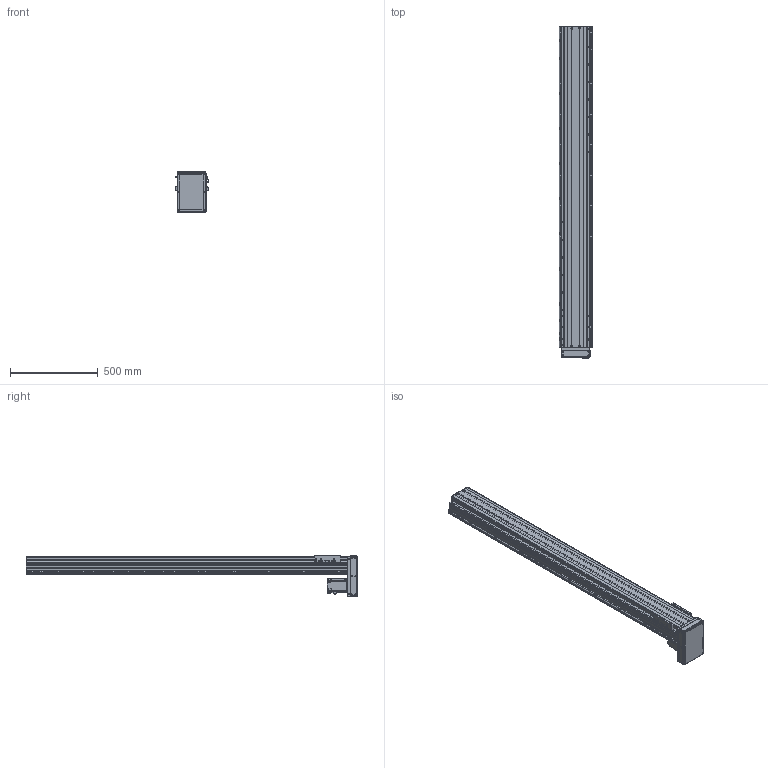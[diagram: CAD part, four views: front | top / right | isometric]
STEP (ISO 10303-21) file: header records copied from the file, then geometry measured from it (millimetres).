
FILE_DESCRIPTION(/* description */ ('MANUFACTURE','CAx-IF Rec.Pracs.---Representation and Presentation of Product Manufacturing Information (PMI)---4.0---2014-10-13'),/* implementation_level */ '2;1');
FILE_NAME(/* name */ '\\192.168.0.160\disk1\HAN SHIN Master\B-설계부문\C-표준\B-2024년\BC02-표준도면\+로봇 개선표준도면\표준 승인도 폴더 - 재작업\3D\HS Type\HS160\D-Type\HS160-D70-N-1600-R10.stp',/* time_stamp */ '2024-08-28T13:39:44+09:00',/* author */ ('user'),/* organization */ (''),/* preprocessor_version */ 'ST-DEVELOPER v18.1',/* originating_system */ 'Autodesk Inventor 2022',/* authorisation */ 'LIP');
FILE_SCHEMA (('AP242_MANAGED_MODEL_BASED_3D_ENGINEERING_MIM_LF { 1 0 10303 442 1 1 4 }'));
Products named in the file (30): HS160 D 70-N-0500-R10 - 간소화; HS160 LR BASE (400W-20Pi); 6004ZZ; 6004ZZ Outer ring; 6004ZZ Shield1; 6004ZZ Inner ring; 6004ZZ Ball; 6004ZZ Shield2; UPCOVER; HR180 FRONT BLOCK; HR180 FRONT BLOCK_1; REAR COVER; STOPPER104; HR120 SENSOR DOG; TABLE; LMKE2020 NUT; NUT HOLDER; hsr_ftht_A-M6F_grease_nipple_joint; NIPPLE CAP(신규); hg-kr73_; 750W MOTOR PLATE; 화살표; SENSOR BRK(EE-SX674A); EE_SX674A; HS160 D MOTOR PLATE; HG160DACRYLCOVER001; HG160DACRYLCOVER003; HG160 D BELT COVER; HG160ACRYLCOVER002; SIDE COVER
Assembly tree (57 placements, depth 3):
  HS160 D 70-N-0500-R10 - 간소화
    HS160 LR BASE (400W-20Pi)
    6004ZZ
      6004ZZ Outer ring
      6004ZZ Shield1
      6004ZZ Inner ring
      6004ZZ Ball  x13
      6004ZZ Shield2
    UPCOVER
    SIDE COVER  x2
    HR180 FRONT BLOCK
    HR180 FRONT BLOCK_1
    REAR COVER
    STOPPER104  x2
    HR120 SENSOR DOG
    SENSOR BRK(EE-SX674A)  x3
    EE_SX674A  x3
    TABLE
    LMKE2020 NUT
    NUT HOLDER
    hsr_ftht_A-M6F_grease_nipple_joint  x5
    NIPPLE CAP(신규)  x5
    화살표  x2
    hg-kr73_
    750W MOTOR PLATE
    HS160 D MOTOR PLATE
    HG160DACRYLCOVER001
    HG160ACRYLCOVER002  x2
    HG160DACRYLCOVER003
    HG160 D BELT COVER
Bounding box: 193.5 x 1892 x 232 mm (x, y, z)
Volume: 11596460.6 mm3; surface area: 2922550.3 mm2
Topology: 56 solids, 56 shells, 2669 faces, 7411 edges, 4818 vertices
Faces by surface type: plane 1238, cylinder 983, cone 335, sphere 57, torus 36, bspline 20
Full cylindrical faces by diameter (mm): 2.459 x40, 3 x32, 3.2 x2, 3.242 x48, 3.4 x22, 3.5 x6, 4.134 x28, 4.2 x8, 4.5 x36, 4.917 x61, 5 x30, 5.5 x25, 5.6 x5, 5.9 x4, 6 x19, 6.5 x16, 6.6 x18, 7 x4, 7.6 x4, 8.376 x20, 9 x6, 9.5 x29, 11 x14, 19 x1, 20 x2, 25 x1, 25.7 x4, 27 x2, 29.5 x1, 30 x1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
Entity records: 76783 total; most frequent: CARTESIAN_POINT 15660, DIRECTION 12316, ORIENTED_EDGE 11130, EDGE_CURVE 5565, AXIS2_PLACEMENT_3D 4617, VERTEX_POINT 3700, LINE 3082, VECTOR 3082
